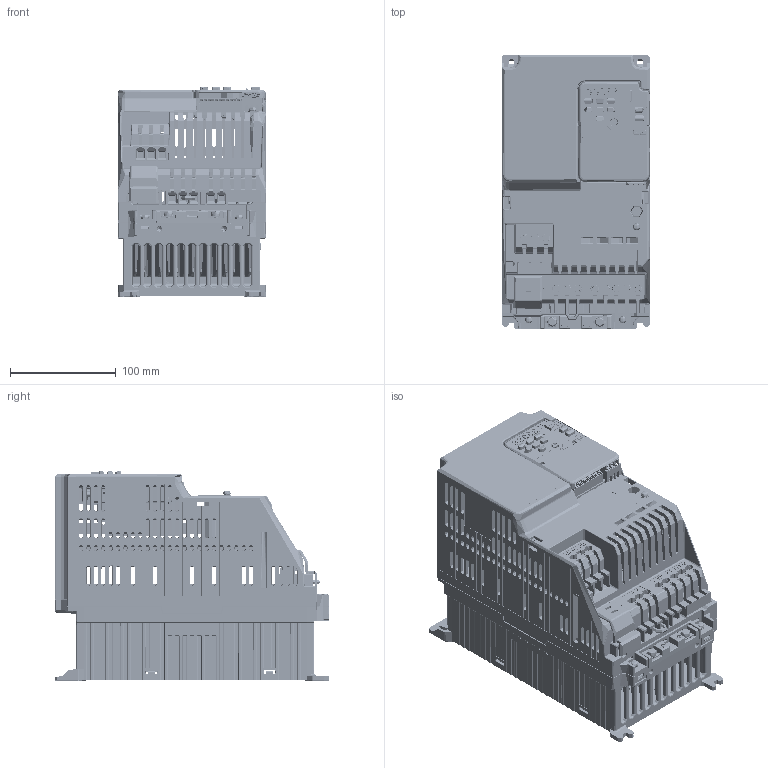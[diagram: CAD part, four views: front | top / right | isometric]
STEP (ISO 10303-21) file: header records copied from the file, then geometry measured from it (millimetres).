
FILE_DESCRIPTION((''),'2;1');
FILE_NAME('GA500_EMC_FRAME_V5-C_ASM','2019-03-08T',('jam'),('YASKAWA ELECTRIC CORCORATION'),'PRO/ENGINEER BY PARAMETRIC TECHNOLOGY CORPORATION, 2015440','PRO/ENGINEER BY PARAMETRIC TECHNOLOGY CORPORATION, 2015440','');
FILE_SCHEMA(('CONFIG_CONTROL_DESIGN'));
Products named in the file (134): LAY_KIPR-GA50_Q_4023_1; 400-104-419_AF0_1; 400-115-309_1; SCAT41027-B_1; 06025VG-24S-BA-YY_02_1; 400-104-415_1; VGEM_47P5_PB_0622_AF0_1; MKDS10HV_5-ZB-10P16_AF0_1; MKDS10HV_3-ZB-10P16_AF1_1; VGEM_47P5_PB_EMC_0622_AF0_ASM_1_ASM; SCAT41285_M4X12_TOGARISAKIK_AF1; 400-104-315-01B-1_AF0_1; MKDS10HV_3-ZB-10P16_AF0_1; 47P5_EMC_20180628_AF0_ASM_1_ASM; 400-112-392_AF1_1; HSR-M4-7P4_1; 400-112-392_AF0_ASM_1_ASM; 400-104-023-01F-5_1; 95003-2884_1; B12B-PASK-1_1; MANIFOLD_SOLID_BREP_601376; MANIFOLD_SOLID_BREP_601527; MANIFOLD_SOLID_BREP_601678; MANIFOLD_SOLID_BREP_601829; MANIFOLD_SOLID_BREP_601982; MANIFOLD_SOLID_BREP_602133; MANIFOLD_SOLID_BREP_602284; MANIFOLD_SOLID_BREP_602435; MANIFOLD_SOLID_BREP_602586; MANIFOLD_SOLID_BREP_602737; MANIFOLD_SOLID_BREP_602888; 1734753-1_AF1_1_ASM; MANIFOLD_SOLID_BREP_612807; MANIFOLD_SOLID_BREP_612991; MANIFOLD_SOLID_BREP_613175; MANIFOLD_SOLID_BREP_613359; MANIFOLD_SOLID_BREP_613543; MANIFOLD_SOLID_BREP_613694; MANIFOLD_SOLID_BREP_613845; MANIFOLD_SOLID_BREP_613996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
Assembly tree (136 placements, depth 6):
  GA500_EMC_FRAME_V5-C_ASM
    KIPR-GA50_Q_4023_ASM_3_ASM
      LAY_KIPR-GA50_Q_4023_1
      400-104-419_AF0_1
      400-115-309_1
      SCAT41027-B_1  x2
      06025VG-24S-BA-YY_02_1
      400-104-415_1
      VGEM_47P5_PB_EMC_0622_AF0_ASM_1_ASM
        VGEM_47P5_PB_0622_AF0_1
        MKDS10HV_5-ZB-10P16_AF0_1
        MKDS10HV_3-ZB-10P16_AF1_1
      SCAT41285_M4X12_TOGARISAKIK_AF1
      47P5_EMC_20180628_AF0_ASM_1_ASM
        400-104-315-01B-1_AF0_1
        MKDS10HV_3-ZB-10P16_AF0_1
      400-112-392_AF0_ASM_1_ASM
        400-112-392_AF1_1
        HSR-M4-7P4_1
      KTC750050-SXXXX_ASM_1_ASM
        400-104-023-01F-5_1
        95003-2884_1
        B12B-PASK-1_1
        1734753-1_AF1_1_ASM
          MANIFOLD_SOLID_BREP_601376
          MANIFOLD_SOLID_BREP_601527
          MANIFOLD_SOLID_BREP_601678
          MANIFOLD_SOLID_BREP_601829
          MANIFOLD_SOLID_BREP_601982
          MANIFOLD_SOLID_BREP_602133
          MANIFOLD_SOLID_BREP_602284
          MANIFOLD_SOLID_BREP_602435
          MANIFOLD_SOLID_BREP_602586
          MANIFOLD_SOLID_BREP_602737
          MANIFOLD_SOLID_BREP_602888
        DHB-PD20-S131N-4P9_AF1_1_ASM
          MANIFOLD_SOLID_BREP_612807
          MANIFOLD_SOLID_BREP_612991
          MANIFOLD_SOLID_BREP_613175
          MANIFOLD_SOLID_BREP_613359
          MANIFOLD_SOLID_BREP_613543
          MANIFOLD_SOLID_BREP_613694
          MANIFOLD_SOLID_BREP_613845
          MANIFOLD_SOLID_BREP_613996
          MANIFOLD_SOLID_BREP_614147
          MANIFOLD_SOLID_BREP_614298
          MANIFOLD_SOLID_BREP_614449
          MANIFOLD_SOLID_BREP_614600
          MANIFOLD_SOLID_BREP_614751
          MANIFOLD_SOLID_BREP_614902
          MANIFOLD_SOLID_BREP_615053
          MANIFOLD_SOLID_BREP_615204
          MANIFOLD_SOLID_BREP_615355
          MANIFOLD_SOLID_BREP_615506
          MANIFOLD_SOLID_BREP_615657
          MANIFOLD_SOLID_BREP_615808
          MANIFOLD_SOLID_BREP_615959
          MANIFOLD_SOLID_BREP_616110
          MANIFOLD_SOLID_BREP_616261
          MANIFOLD_SOLID_BREP_616412
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Bounding box: 140.32 x 260 x 198.74 mm (x, y, z)
Topology: 119 solids, 136 shells, 21199 faces, 58007 edges, 37253 vertices
Faces by surface type: plane 13141, cylinder 4220, bspline 1641, cone 1324, torus 617, sphere 256
Entity records: 779559 total; most frequent: CARTESIAN_POINT 256000, ORIENTED_EDGE 114860, DIRECTION 98783, EDGE_CURVE 57435, VECTOR 40441, LINE 40441, VERTEX_POINT 37081, AXIS2_PLACEMENT_3D 29171
